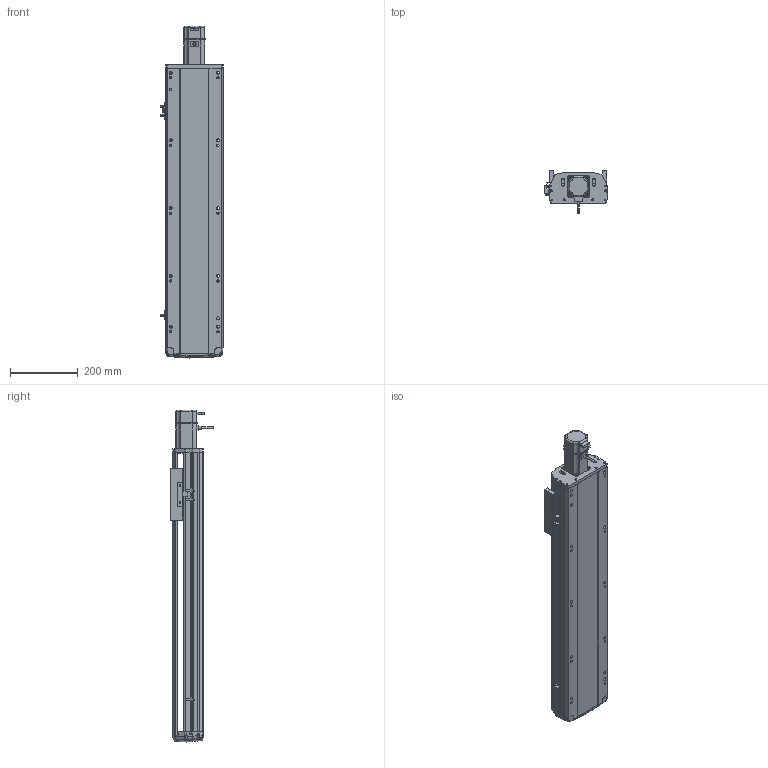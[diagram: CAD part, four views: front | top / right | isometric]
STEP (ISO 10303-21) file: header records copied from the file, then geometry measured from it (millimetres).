
FILE_DESCRIPTION (( 'STEP AP214' ), '1' );
FILE_NAME ('RTH17-XX-600-E-M40-C4（方程式）.STEP', '2025-10-24T05:35:15', ( '' ), ( '' ), 'SwSTEP 2.0', 'SolidWorks 2018', '' );
FILE_SCHEMA (( 'AUTOMOTIVE_DESIGN' ));
Length unit declared in the file: millimetre
Products named in the file (9): RTH17-XX-600-E-M40-C4（方程式）; N_M40^RTH17-XX-XX-E-M40-C4（方程式）; N_RTH-BL-012 感应片(外置)^RTH17-XX-XX-E-M40-C4（方程式）; N_RTH17-E-007上盖^RTH17-XX-XX-E-M40-C4（方程式）; N_RTH17-GY-001P^RTH17-XX-XX-E-M40-C4（方程式）; N_OMRON EE-SX672 換覜ん^RTH17-XX-XX-E-M40-C4ㄗ源最宒ㄘ; N_RTH17-E-011底座^RTH17-XX-XX-E-M40-C4（方程式）; N_RTH17-E-004丝杆螺母连接座^RTH17-XX-XX-E-M40-C4（方程式）; N_RTH17-E-008-P40电机板^RTH17-XX-XX-E-M40-C4（方程式）
Assembly tree (10 placements, depth 2):
  RTH17-XX-600-E-M40-C4（方程式）
    N_RTH17-E-011底座^RTH17-XX-XX-E-M40-C4（方程式）
    N_RTH17-E-007上盖^RTH17-XX-XX-E-M40-C4（方程式）
    N_RTH17-E-008-P40电机板^RTH17-XX-XX-E-M40-C4（方程式）
    N_OMRON EE-SX672 換覜ん^RTH17-XX-XX-E-M40-C4ㄗ源最宒ㄘ  x3
    N_RTH-BL-012 感应片(外置)^RTH17-XX-XX-E-M40-C4（方程式）
    N_RTH17-E-004丝杆螺母连接座^RTH17-XX-XX-E-M40-C4（方程式）
    N_RTH17-GY-001P^RTH17-XX-XX-E-M40-C4（方程式）
    N_M40^RTH17-XX-XX-E-M40-C4（方程式）
Bounding box: 183.5 x 127 x 980.69 mm (x, y, z)
Volume: 7073898 mm3; surface area: 962733.4 mm2
Topology: 9 solids, 11 shells, 1665 faces, 4657 edges, 3038 vertices
Faces by surface type: plane 827, cylinder 471, bspline 330, cone 28, torus 9
Entity records: 48797 total; most frequent: CARTESIAN_POINT 19524, ORIENTED_EDGE 6338, DIRECTION 5265, EDGE_CURVE 3173, VERTEX_POINT 2074, LINE 1777, VECTOR 1777, AXIS2_PLACEMENT_3D 1744
